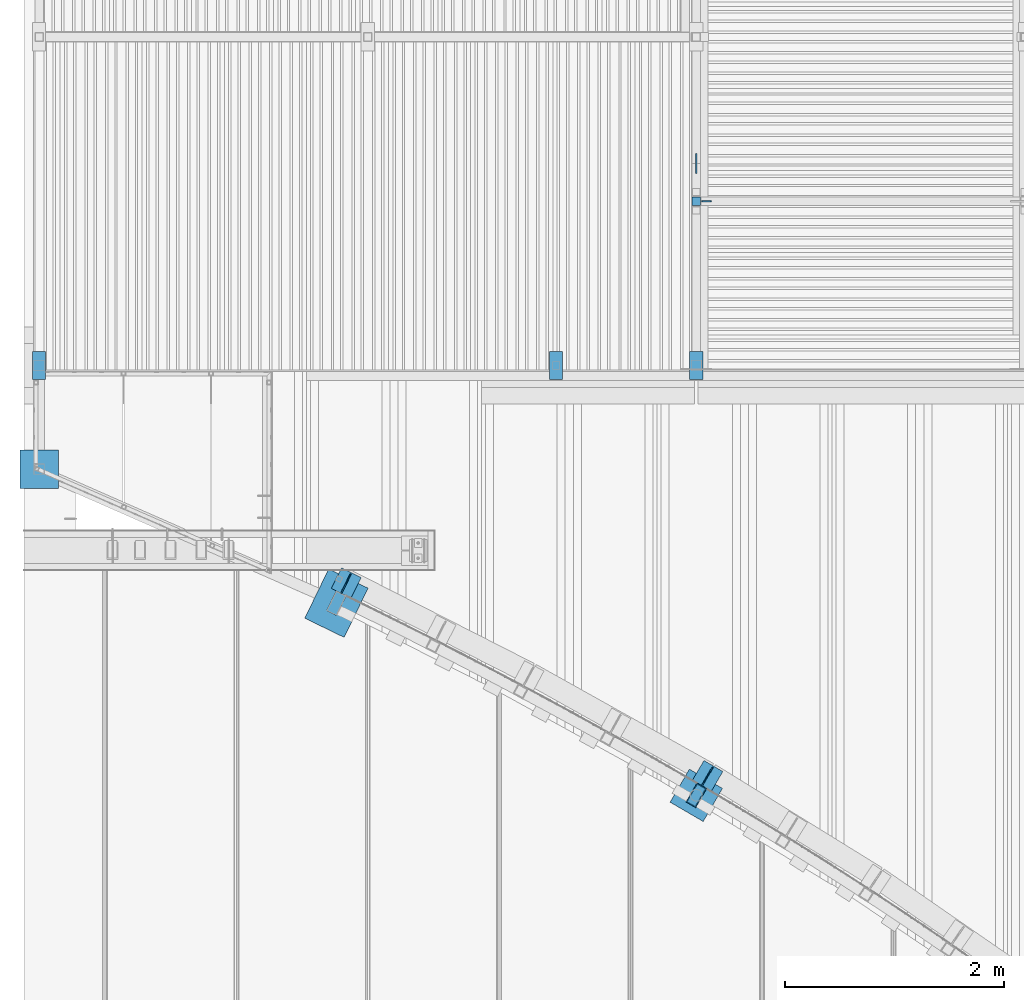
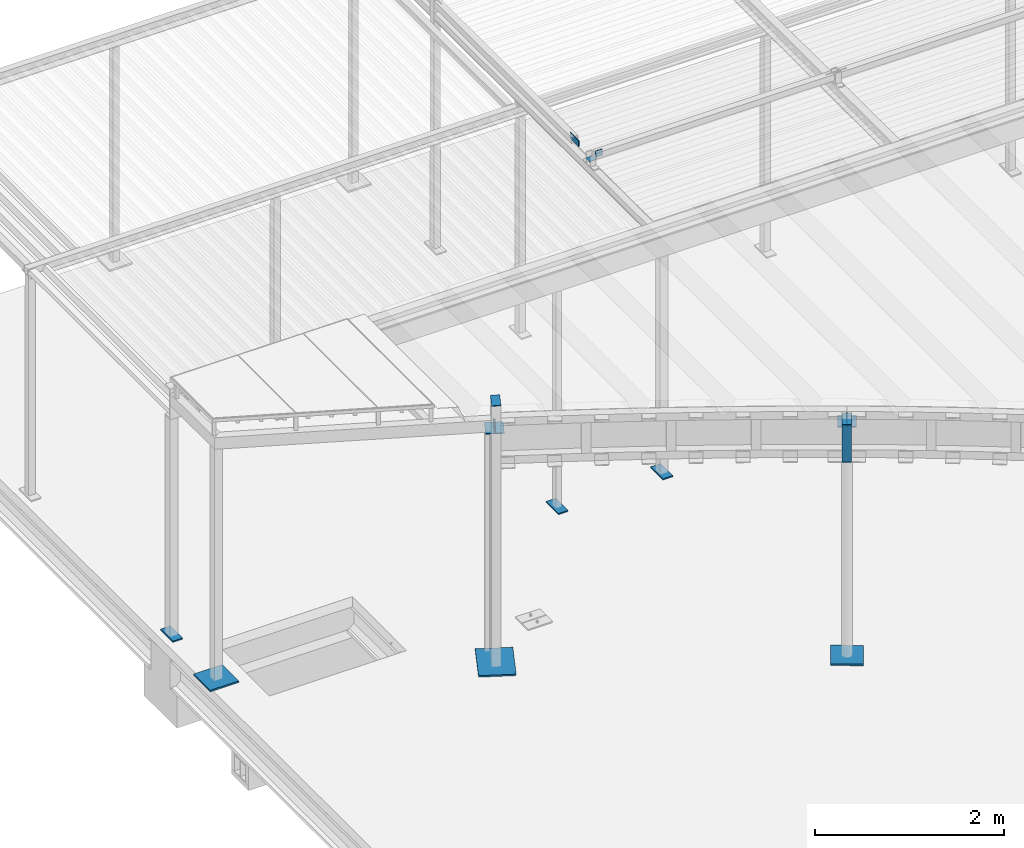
# One storey, part 7 of 98: 17 columns.
"""IFC2X3 building model written with IfcOpenShell, lengths in millimetres."""

from ifc_helpers import new_model, entity, si_unit, converted_unit, derived_unit, direction, frame, origin_with_axes, place, context, subcontext, project, spatial, faceted_brep, material, type_object, element, save


model = new_model("IFC2X3")

# Units and contexts
model_context = context("Model", 3, precision=0.01, world=frame((0.0, 4.29681676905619e-09, 0.0)), true_north=direction((4.01073788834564e-13, 1.0)))
plan_context = context("Plan", 3, precision=0.01, world=frame((0.0, 4.29681676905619e-09, 0.0)), true_north=direction((4.01073788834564e-13, 1.0)))
body_context = subcontext(model_context, "Body", "Model", "MODEL_VIEW")
ifc_project = project(units=[converted_unit("PLANEANGLEUNIT", "DEGREE", entity("IfcPositiveLengthMeasure", 0.0174532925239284), si_unit("PLANEANGLEUNIT", "RADIAN"), dimensions=[0, 0, 0, 0, 0, 0, 0]), si_unit("AREAUNIT", "SQUARE_METRE"), si_unit("LENGTHUNIT", "METRE", prefix="MILLI"), si_unit("MASSUNIT", "GRAM", prefix="KILO"), si_unit("POWERUNIT", "WATT"), si_unit("PRESSUREUNIT", "PASCAL"), si_unit("FORCEUNIT", "NEWTON", prefix="KILO"), si_unit("ELECTRICCURRENTUNIT", "AMPERE"), si_unit("THERMODYNAMICTEMPERATUREUNIT", "DEGREE_CELSIUS"), si_unit("TIMEUNIT", "SECOND"), si_unit("VOLUMEUNIT", "CUBIC_METRE"), derived_unit("LINEARVELOCITYUNIT", [(si_unit("LENGTHUNIT", "METRE"), 1), (si_unit("TIMEUNIT", "SECOND"), -1)]), derived_unit("VOLUMETRICFLOWRATEUNIT", [(si_unit("VOLUMEUNIT", "CUBIC_METRE"), 1), (si_unit("TIMEUNIT", "SECOND"), -1)]), derived_unit("THERMALTRANSMITTANCEUNIT", [(si_unit("POWERUNIT", "WATT"), 1), (si_unit("THERMODYNAMICTEMPERATUREUNIT", "KELVIN"), -1), (si_unit("AREAUNIT", "SQUARE_METRE"), -1)])], contexts=[model_context, plan_context])

# Site, building, storey
site_placement = place(None, frame((0.0, -4.29681676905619e-09, 0.0), z_axis=(0.0, 0.0, 1.0), x_axis=(1.0, 0.0, 0.0)))
site = spatial("IfcSite", under=ifc_project, at=site_placement, Name="Gardermoen", CompositionType="ELEMENT")
building_placement = place(site_placement, frame((0.0, 4.29681676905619e-09, 0.0), z_axis=(0.0, 0.0, 1.0), x_axis=(1.0, 0.0, 0.0)))
building = spatial("IfcBuilding", under=site, at=building_placement, Name="TS", CompositionType="ELEMENT")
storey_placement = place(building_placement, origin_with_axes())
storey = spatial("IfcBuildingStorey", under=building, at=storey_placement, Name="D", CompositionType="ELEMENT", Elevation=0.0)

# Columns
ifc_material = material(Name="STEEL/S355")
column_type_1 = type_object("IfcColumnType", Name="PL8*100", PredefinedType="NOTDEFINED")
column_1_placement = place(storey_placement, frame((516670.362855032, 412239.710248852, 207326.0), z_axis=(0.899534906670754, -0.43684888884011, 0.0), x_axis=(0.43684888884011, 0.899534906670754, 0.0)))
element("IfcColumn", 1, at=column_1_placement, inside=storey, type_object=column_type_1, material=ifc_material, Name="STÅLSØYLE", ObjectType="PL8*100", context=body_context, shape_type="Brep", body=[
    faceted_brep([(-5.82076609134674e-10, 4.00000000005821, -50.0), (1.58886541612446e-06, 4.0, 49.9999944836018), (199.999999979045, 4.0, 49.9999999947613), (199.999999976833, 4.0, -50.0000000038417), (1.58886541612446e-06, -4.0, 49.9999944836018), (199.999999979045, -4.0, 49.9999999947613), (-4.94765117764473e-10, -3.99999999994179, -50.0), (199.999999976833, -4.0, -50.0000000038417)], [[[0, 1, 2, 3]], [[1, 4, 5, 2]], [[4, 6, 7, 5]], [[6, 0, 3, 7]], [[5, 7, 3, 2]], [[6, 4, 1, 0]]]),
])
column_type_2 = type_object("IfcColumnType", Name="PL10*80", PredefinedType="NOTDEFINED")
column_2_placement = place(storey_placement, frame((520000.0, 416435.0, 207159.999854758), z_axis=(0.0, -1.0, 0.0), x_axis=(0.0, 0.0, -1.0)))
element("IfcColumn", 2, at=column_2_placement, inside=storey, type_object=column_type_2, material=ifc_material, Name="STÅLSØYLE", ObjectType="PL10*80", context=body_context, shape_type="Brep", body=[
    faceted_brep([(0.0, -5.0, 0.0), (2.91038304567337e-11, -5.0, 180.0), (2.91038304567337e-11, 5.0, 180.0), (0.0, 5.0, 0.0), (80.0, -5.0, 180.0), (80.0, 5.0, 180.0), (80.0, -5.00000000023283, 1.16415321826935e-10), (80.0, 5.00000000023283, -2.3283064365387e-10)], [[[0, 1, 2, 3]], [[1, 4, 5, 2]], [[4, 6, 7, 5]], [[6, 0, 3, 7]], [[5, 7, 3, 2]], [[6, 4, 1, 0]]]),
])
column_3_placement = place(storey_placement, frame((520135.0, 416000.0, 207159.999854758), z_axis=(-0.999999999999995, -9.99999902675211e-08, 0.0), x_axis=(0.0, 0.0, -1.0)))
element("IfcColumn", 3, at=column_3_placement, inside=storey, type_object=column_type_2, material=ifc_material, Name="STÅLSØYLE", ObjectType="PL10*80", context=body_context, shape_type="Brep", body=[
    faceted_brep([(0.0, -5.0, 0.0), (9.74978320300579e-10, -5.0, 85.000000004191), (1.20780896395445e-09, 5.0, 85.0000000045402), (0.0, 5.0, 0.0), (80.0, -5.0, 85.0), (80.0, 5.0, 85.0), (80.0, -5.00000000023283, 1.16415321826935e-10), (80.0, 5.00000000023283, -2.3283064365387e-10)], [[[0, 1, 2, 3]], [[1, 4, 5, 2]], [[4, 6, 7, 5]], [[6, 0, 3, 7]], [[5, 7, 3, 2]], [[6, 4, 1, 0]]]),
])
column_type_3 = type_object("IfcColumnType", Name="PL20*400", PredefinedType="NOTDEFINED")
column_4_placement = place(storey_placement, frame((516604.835521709, 412104.780012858, 203940.0), z_axis=(-0.899534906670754, 0.43684888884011, 0.0), x_axis=(0.43684888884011, 0.899534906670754, 0.0)))
element("IfcColumn", 4, at=column_4_placement, inside=storey, type_object=column_type_3, material=ifc_material, Name="STÅLSØYLE", ObjectType="PL20*400", context=body_context, shape_type="Brep", body=[
    faceted_brep([(-5.82076609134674e-10, 10.0, -199.999999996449), (6.98491930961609e-10, 10.0, 199.999999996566), (499.999999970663, 10.0, 200.000000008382), (499.999999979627, 10.0, -199.999999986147), (6.98491930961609e-10, -10.0, 199.999999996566), (499.999999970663, -10.0, 200.000000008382), (-5.82076609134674e-10, -10.0, -199.999999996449), (499.999999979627, -10.0, -199.999999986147)], [[[0, 1, 2, 3]], [[1, 4, 5, 2]], [[4, 6, 7, 5]], [[6, 0, 3, 7]], [[5, 7, 3, 2]], [[6, 4, 1, 0]]]),
])
column_type_4 = type_object("IfcColumnType", Name="PL15*260", PredefinedType="NOTDEFINED")
for number, where, z_axis, x_axis in (
    (5, (518779.998435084, 414499.981078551, 203937.5), (9.99999902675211e-08, -0.999999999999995, 0.0), (-0.999999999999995, -9.99999902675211e-08, 0.0)),
    (6, (514059.998435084, 414499.981078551, 203937.5), (9.99999902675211e-08, -0.999999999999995, 0.0), (-0.999999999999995, -9.99999902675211e-08, 0.0)),
    (7, (520059.998435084, 414499.981078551, 203937.5), (9.99999902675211e-08, -0.999999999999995, 0.0), (-0.999999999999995, -9.99999902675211e-08, 0.0)),
):
    element("IfcColumn", number, at=place(storey_placement, frame(where, z_axis=z_axis, x_axis=x_axis)), inside=storey, type_object=column_type_4, material=ifc_material, Name="STÅLSØYLE", ObjectType="PL15*260", context=body_context, shape_type="Brep", body=[
        faceted_brep([(0.0, 7.5, -130.0), (0.0, 7.5, 130.0), (120.0, 7.50000000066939, 130.000000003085), (120.0, 7.49999999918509, -130.000000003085), (0.0, -7.5, 130.0), (120.0, -7.4999999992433, 130.000000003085), (0.0, -7.5, -130.0), (120.0, -7.50000000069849, -130.000000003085)], [[[0, 1, 2, 3]], [[1, 4, 5, 2]], [[4, 6, 7, 5]], [[6, 0, 3, 7]], [[5, 7, 3, 2]], [[6, 4, 1, 0]]]),
    ])
column_type_5 = type_object("IfcColumnType", Name="RHS200*100*6.3", PredefinedType="NOTDEFINED")
column_5_placement = place(storey_placement, frame((519999.998435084, 410575.388109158, 206515.0), z_axis=(-0.503216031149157, -0.864160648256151, 0.0), x_axis=(0.0, 0.0, 1.0)))
element("IfcColumn", 8, at=column_5_placement, inside=storey, type_object=column_type_5, material=ifc_material, Name="STÅLSØYLE", ObjectType="RHS200*100*6.3", context=body_context, shape_type="Brep", body=[
    faceted_brep([(0.0, 43.6999998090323, -93.6999998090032), (0.0, -43.6999998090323, -93.6999998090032), (475.0, -43.69999981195, -93.6999998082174), (475.0, 43.6999998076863, -93.6999998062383), (0.0, -43.6999998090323, 93.6999998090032), (475.0, -43.6999998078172, 93.6999998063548), (0.0, 43.6999998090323, 93.6999998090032), (475.0, 43.6999998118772, 93.6999998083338), (0.0, 50.0, -100.0), (0.0, 50.0, 100.0), (475.0, 50.0000000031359, 99.9999999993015), (475.0, 49.9999999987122, -99.9999999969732), (0.0, -50.0, 100.0), (475.0, -49.9999999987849, 99.9999999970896), (0.0, -50.0, -100.0), (475.0, -50.0000000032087, -99.9999999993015)], [[[0, 1, 2, 3]], [[1, 4, 5, 2]], [[4, 6, 7, 5]], [[6, 0, 3, 7]], [[8, 9, 10, 11]], [[9, 12, 13, 10]], [[12, 14, 15, 13]], [[14, 8, 11, 15]], [[13, 15, 11, 10], [5, 7, 3, 2]], [[14, 12, 9, 8], [6, 4, 1, 0]]]),
])
column_type_6 = type_object("IfcColumnType", Name="PL20*350", PredefinedType="NOTDEFINED")
column_6_placement = place(storey_placement, frame((513824.90658548, 413728.83990572, 203940.0), z_axis=(1.0, 0.0, 0.0), x_axis=(0.0, -1.0, 0.0)))
element("IfcColumn", 9, at=column_6_placement, inside=storey, type_object=column_type_6, material=ifc_material, Name="STÅLSØYLE", ObjectType="PL20*350", context=body_context, shape_type="Brep", body=[
    faceted_brep([(0.0, -10.0, 0.0), (-1.16415321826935e-10, -10.0, 350.0), (-1.16415321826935e-10, 10.0, 350.0), (0.0, 10.0, 0.0), (350.0, -10.0, 350.0), (350.0, 10.0, 350.0), (350.0, -10.0, 5.82076609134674e-11), (350.0, 10.0, 5.82076609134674e-11)], [[[0, 1, 2, 3]], [[1, 4, 5, 2]], [[4, 6, 7, 5]], [[6, 0, 3, 7]], [[5, 7, 3, 2]], [[6, 4, 1, 0]]]),
])
column_7_placement = place(storey_placement, frame((520151.226548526, 410487.325303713, 203940.0), z_axis=(-0.503216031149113, -0.864160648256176, 0.0), x_axis=(-0.864160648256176, 0.503216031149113, 0.0)))
element("IfcColumn", 10, at=column_7_placement, inside=storey, type_object=column_type_6, material=ifc_material, Name="STÅLSØYLE", ObjectType="PL20*350", context=body_context, shape_type="Brep", body=[
    faceted_brep([(8.0326572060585e-09, 10.0, -175.000000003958), (-8.14907252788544e-09, 10.0, 175.0000000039), (349.99999996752, 10.0, 175.000000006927), (349.999999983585, 10.0, -175.000000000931), (-8.14907252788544e-09, -10.0, 175.0000000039), (349.99999996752, -10.0, 175.000000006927), (8.0326572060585e-09, -10.0, -175.000000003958), (349.999999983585, -10.0, -175.000000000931)], [[[0, 1, 2, 3]], [[1, 4, 5, 2]], [[4, 6, 7, 5]], [[6, 0, 3, 7]], [[5, 7, 3, 2]], [[6, 4, 1, 0]]]),
])
column_type_7 = type_object("IfcColumnType", Name="PL10*200", PredefinedType="NOTDEFINED")
for number, where, z_axis, x_axis in (
    (11, (520242.65682386, 410792.377641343, 206828.0), (-0.507196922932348, -0.861830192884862, 0.0), (-0.861830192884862, 0.507196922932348, 0.0)),
    (12, (516939.996321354, 412563.923742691, 206828.0), (-0.442715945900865, -0.896661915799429, 0.0), (-0.896661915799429, 0.442715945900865, 0.0)),
):
    element("IfcColumn", number, at=place(storey_placement, frame(where, z_axis=z_axis, x_axis=x_axis)), inside=storey, type_object=column_type_7, material=ifc_material, Name="STÅLSØYLE", ObjectType="PL10*200", context=body_context, shape_type="Brep", body=[
        faceted_brep([(0.0, -5.0, 0.0), (-0.454028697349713, -5.0, 209.566192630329), (-0.454028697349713, 5.0, 209.566192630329), (0.0, 5.0, 0.0), (199.544097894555, -5.0, 210.432800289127), (199.544097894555, 5.0, 210.432800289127), (200.0, -5.0, 0.0), (200.0, 5.0, -5.82076609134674e-11)], [[[0, 1, 2, 3]], [[1, 4, 5, 2]], [[4, 6, 7, 5]], [[6, 0, 3, 7]], [[5, 7, 3, 2]], [[6, 4, 1, 0]]]),
    ])
column_type_8 = type_object("IfcColumnType", Name="PL10*150", PredefinedType="NOTDEFINED")
for number, where, z_axis, x_axis in (
    (13, (520149.369432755, 410830.975623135, 206983.0), (-0.505310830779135, -0.862937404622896, 0.0), (0.0, 0.0, -1.0)),
    (14, (516844.132609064, 412595.585868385, 206983.0), (-0.440753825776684, -0.897628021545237, 0.0), (0.0, 0.0, -1.0)),
):
    element("IfcColumn", number, at=place(storey_placement, frame(where, z_axis=z_axis, x_axis=x_axis)), inside=storey, type_object=column_type_8, material=ifc_material, Name="STÅLSØYLE", ObjectType="PL10*150", context=body_context, shape_type="Brep", body=[
        faceted_brep([(0.0, -5.0, 150.0), (2.91038304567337e-11, -5.0000000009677, 195.946411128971), (2.91038304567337e-11, 4.99999999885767, 195.946411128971), (0.0, 5.0, 150.0), (150.0, -5.0000000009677, 195.946411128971), (150.0, 4.99999999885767, 195.946411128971), (150.0, -4.99999999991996, 0.0), (150.0, 4.99999999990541, 1.16415321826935e-10), (99.9999999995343, -4.99999999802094, 7.21774995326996e-09), (99.9999999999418, 5.00000000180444, 6.81029632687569e-09)], [[[0, 1, 2, 3]], [[1, 4, 5, 2]], [[4, 6, 7, 5]], [[6, 8, 9, 7]], [[8, 0, 3, 9]], [[5, 7, 9, 3, 2]], [[8, 6, 4, 1, 0]]]),
    ])
column_type_9 = type_object("IfcColumnType", Name="100*10", PredefinedType="NOTDEFINED")
for number, where, z_axis, x_axis in (
    (15, (519949.676831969, 410488.972044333, 206510.0), (0.864160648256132, -0.50321603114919, 0.0), (0.50321603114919, 0.864160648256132, 0.0)),
    (16, (519949.676831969, 410488.972044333, 206995.0), (0.864160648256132, -0.50321603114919, 0.0), (0.50321603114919, 0.864160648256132, 0.0)),
):
    element("IfcColumn", number, at=place(storey_placement, frame(where, z_axis=z_axis, x_axis=x_axis)), inside=storey, type_object=column_type_9, material=ifc_material, Name="STÅLSØYLE", ObjectType="100*10", context=body_context, shape_type="Brep", body=[
        faceted_brep([(6.40284270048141e-10, 5.0, -50.0), (-5.82076609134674e-10, 5.00000000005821, 50.0), (199.999999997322, 5.0, 50.0000000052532), (199.999999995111, 5.0, -49.9999999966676), (-6.98491930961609e-10, -5.0, 50.0), (199.999999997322, -5.0, 50.0000000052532), (5.23868948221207e-10, -5.0, -50.0), (199.999999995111, -5.0, -49.9999999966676)], [[[0, 1, 2, 3]], [[1, 4, 5, 2]], [[4, 6, 7, 5]], [[6, 0, 3, 7]], [[5, 7, 3, 2]], [[6, 4, 1, 0]]]),
    ])
column_type_10 = type_object("IfcColumnType", Name="80*80", PredefinedType="NOTDEFINED")
column_8_placement = place(storey_placement, frame((520000.0, 416000.0, 207075.0), z_axis=(0.0, -1.0, 0.0), x_axis=(0.0, 0.0, 1.0)))
element("IfcColumn", 17, at=column_8_placement, inside=storey, type_object=column_type_10, material=ifc_material, Name="STÅLSØYLE", ObjectType="80*80", context=body_context, shape_type="Brep", body=[
    faceted_brep([(0.0, 40.0, -40.0), (0.0, 40.0, 40.0), (5.00337743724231, 40.0, 40.0), (5.00337743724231, 40.0, -40.0), (0.0, -40.0, 40.0), (5.00337743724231, -40.0, 40.0), (0.0, -40.0, -40.0), (5.00337743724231, -40.0, -40.0)], [[[0, 1, 2, 3]], [[1, 4, 5, 2]], [[4, 6, 7, 5]], [[6, 0, 3, 7]], [[5, 7, 3, 2]], [[6, 4, 1, 0]]]),
])

save(model, "model.ifc")
